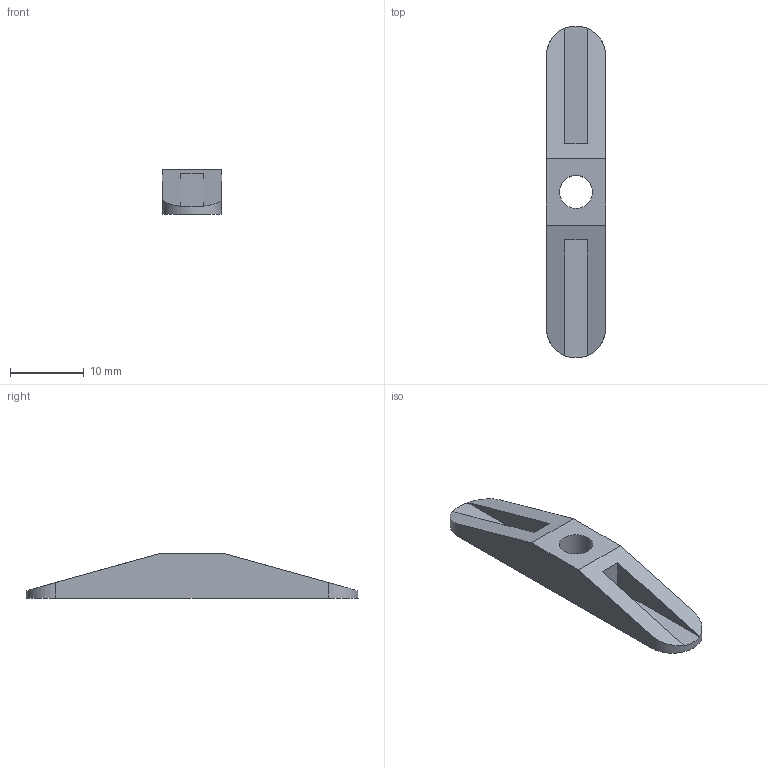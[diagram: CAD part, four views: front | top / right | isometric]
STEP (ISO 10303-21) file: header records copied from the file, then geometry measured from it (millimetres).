
FILE_DESCRIPTION(/* description */ ('Alibre Inc.'),/* implementation_level */ '2;1');
FILE_NAME(/* name */ 'export-07C3BB53-0740-41D2-8E72-16B2373708F2',/* time_stamp */ '2026-01-29T12:22:20+00:00',/* author */ (''),/* organization */ (''),/* preprocessor_version */ 'ST-DEVELOPER v17',/* originating_system */ 'Alibre',/* authorisation */ '');
FILE_SCHEMA (('CONFIG_CONTROL_DESIGN'));
Length unit declared in the file: millimetre
Bounding box: 8 x 45 x 6 mm (x, y, z)
Volume: 1114.1 mm3; surface area: 1291.4 mm2
Topology: 1 solids, 1 shells, 17 faces, 45 edges, 30 vertices
Faces by surface type: plane 14, cylinder 3
Full cylindrical faces by diameter (mm): 4.5 x1
Entity records: 589 total; most frequent: CARTESIAN_POINT 89, ORIENTED_EDGE 88, DIRECTION 70, EDGE_CURVE 44, VECTOR 34, LINE 34, VERTEX_POINT 30, AXIS2_PLACEMENT_3D 25
